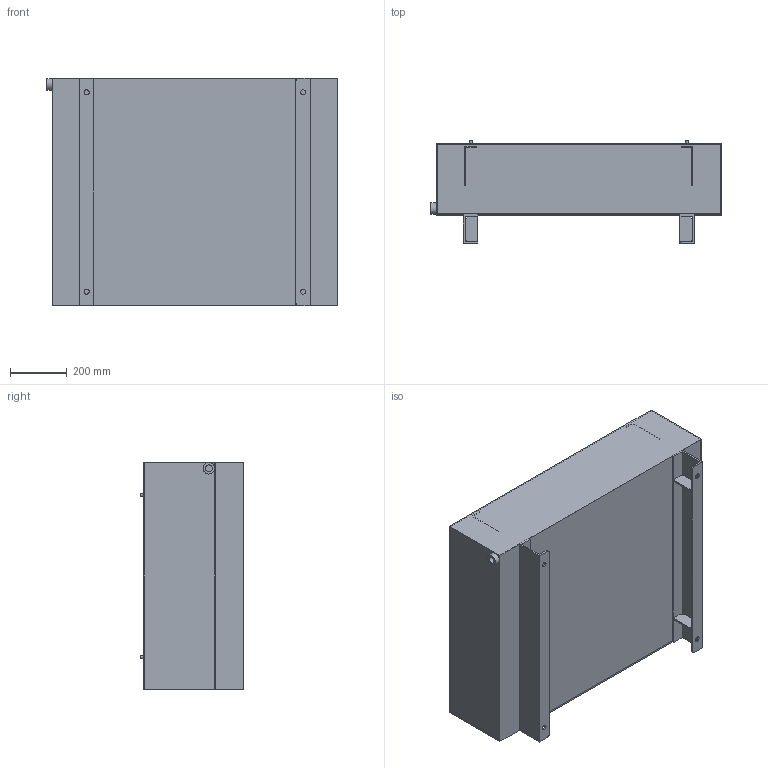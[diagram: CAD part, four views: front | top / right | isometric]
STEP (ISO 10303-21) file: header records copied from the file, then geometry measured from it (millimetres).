
FILE_DESCRIPTION (( 'STEP AP203' ), '1' );
FILE_NAME ('R1-067T MONOBLOC.STEP', '2015-06-18T10:10:33', ( 'rodrigue' ), ( 'Hewlett-Packard Company' ), 'SwSTEP 2.0', 'SolidWorks 2015', '' );
FILE_SCHEMA (( 'CONFIG_CONTROL_DESIGN' ));
Length unit declared in the file: millimetre
Products named in the file (1): R1-067T MONOBLOC
Bounding box: 1020 x 362 x 800 mm (x, y, z)
Volume: 8398098 mm3; surface area: 4835766.3 mm2
Topology: 1 solids, 1 shells, 117 faces, 343 edges, 232 vertices
Faces by surface type: plane 98, cylinder 19
Full cylindrical faces by diameter (mm): 10 x4, 11 x4, 18 x4, 24 x1, 33 x1, 40 x1
Entity records: 3835 total; most frequent: CARTESIAN_POINT 658, ORIENTED_EDGE 636, DIRECTION 592, EDGE_CURVE 318, LINE 280, VECTOR 280, VERTEX_POINT 222, EDGE_LOOP 170
